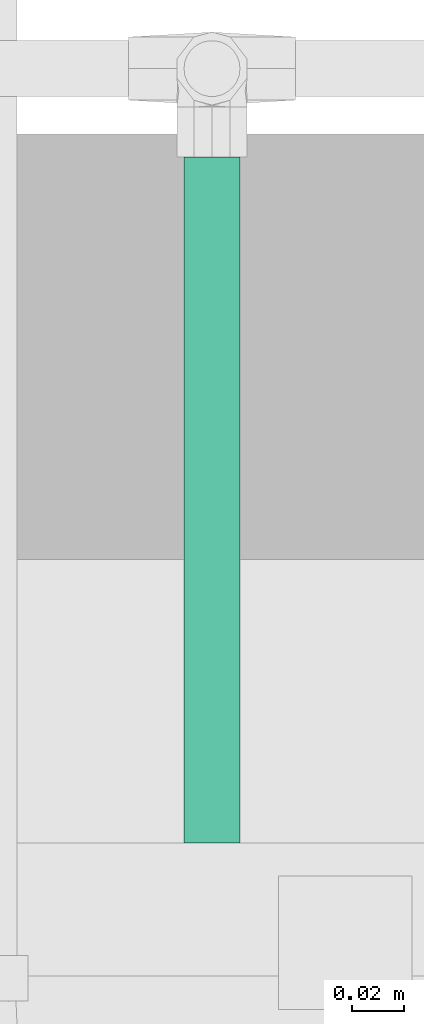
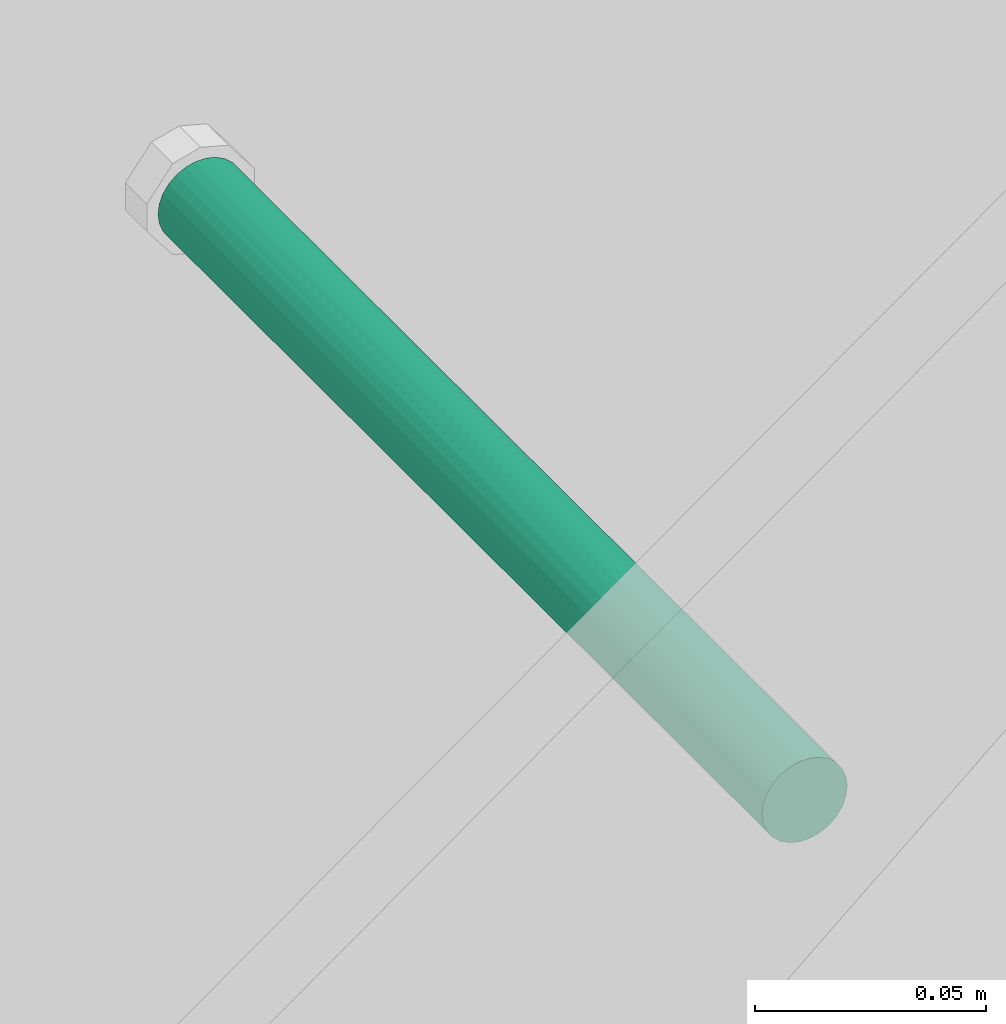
# One storey, part 21 of 41: 1 flow segment.
"""IFC2X3 building model written with IfcOpenShell, lengths in millimetres."""

from ifc_helpers import new_model, entity, si_unit, converted_unit, derived_unit, direction, frame, origin, origin_2d_with_axis, place, context, subcontext, project, spatial, circle, extrude, type_object, element, save


model = new_model("IFC2X3")

# Units and contexts
model_context = context("Model", 3, precision=0.01, world=origin(), true_north=direction((6.12303176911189e-17, 1.0)))
body_context = subcontext(model_context, "Body", "Model", "MODEL_VIEW")
ifc_project = project(units=[si_unit("LENGTHUNIT", "METRE", prefix="MILLI"), si_unit("AREAUNIT", "SQUARE_METRE"), si_unit("VOLUMEUNIT", "CUBIC_METRE"), converted_unit("PLANEANGLEUNIT", "DEGREE", entity("IfcRatioMeasure", 0.0174532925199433), si_unit("PLANEANGLEUNIT", "RADIAN"), dimensions=[0, 0, 0, 0, 0, 0, 0]), si_unit("MASSUNIT", "GRAM", prefix="KILO"), derived_unit("MASSDENSITYUNIT", [(si_unit("MASSUNIT", "GRAM", prefix="KILO"), 1), (si_unit("LENGTHUNIT", "METRE"), -3)]), si_unit("TIMEUNIT", "SECOND"), si_unit("FREQUENCYUNIT", "HERTZ"), si_unit("THERMODYNAMICTEMPERATUREUNIT", "DEGREE_CELSIUS"), derived_unit("THERMALTRANSMITTANCEUNIT", [(si_unit("MASSUNIT", "GRAM", prefix="KILO"), 1), (si_unit("THERMODYNAMICTEMPERATUREUNIT", "KELVIN"), -1), (si_unit("TIMEUNIT", "SECOND"), -3)]), derived_unit("VOLUMETRICFLOWRATEUNIT", [(si_unit("LENGTHUNIT", "METRE"), 3), (si_unit("TIMEUNIT", "SECOND"), -1)]), si_unit("ELECTRICCURRENTUNIT", "AMPERE"), si_unit("ELECTRICVOLTAGEUNIT", "VOLT"), si_unit("POWERUNIT", "WATT"), si_unit("FORCEUNIT", "NEWTON", prefix="KILO"), si_unit("ILLUMINANCEUNIT", "LUX"), si_unit("LUMINOUSFLUXUNIT", "LUMEN"), si_unit("LUMINOUSINTENSITYUNIT", "CANDELA"), derived_unit("USERDEFINED", [(si_unit("MASSUNIT", "GRAM", prefix="KILO"), -1), (si_unit("LENGTHUNIT", "METRE"), -2), (si_unit("TIMEUNIT", "SECOND"), 3), (si_unit("LUMINOUSFLUXUNIT", "LUMEN"), 1)]), derived_unit("LINEARVELOCITYUNIT", [(si_unit("LENGTHUNIT", "METRE"), 1), (si_unit("TIMEUNIT", "SECOND"), -1)]), si_unit("PRESSUREUNIT", "PASCAL"), derived_unit("USERDEFINED", [(si_unit("LENGTHUNIT", "METRE"), -2), (si_unit("MASSUNIT", "GRAM", prefix="KILO"), 1), (si_unit("TIMEUNIT", "SECOND"), -2)])], contexts=[model_context])

# Site, building, storey
site_placement = place(None, origin())
site = spatial("IfcSite", under=ifc_project, at=site_placement, Name="Surface", CompositionType="ELEMENT")
building_placement = place(site_placement, origin())
building = spatial("IfcBuilding", under=site, at=building_placement, CompositionType="ELEMENT")
storey_placement = place(building_placement, frame((0.0, 0.0, 300.0)))
storey = spatial("IfcBuildingStorey", under=building, at=storey_placement, Name="F.F.L", CompositionType="ELEMENT", Elevation=300.0)

# Flow segment
pipe_segment_type = type_object("IfcPipeSegmentType", Name="Pipe Types:PVC80", PredefinedType="NOTDEFINED")
flow_segment_placement = place(storey_placement, origin())
element("IfcFlowSegment", 1, at=flow_segment_placement, inside=storey, type_object=pipe_segment_type, Name="Pipe Types:PVC80", ObjectType="Pipe Types:PVC80", context=body_context, shape_type="SweptSolid", body=[
    extrude(circle(Radius=10.668, at=origin_2d_with_axis()), frame((-3975.27517007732, 10555.8400891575, 257.535533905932), z_axis=(0.0, 1.0, 0.0), x_axis=(1.0, 0.0, 0.0)), (0.0, 0.0, 1.0), 261.262450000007),
])

save(model, "model.ifc")
